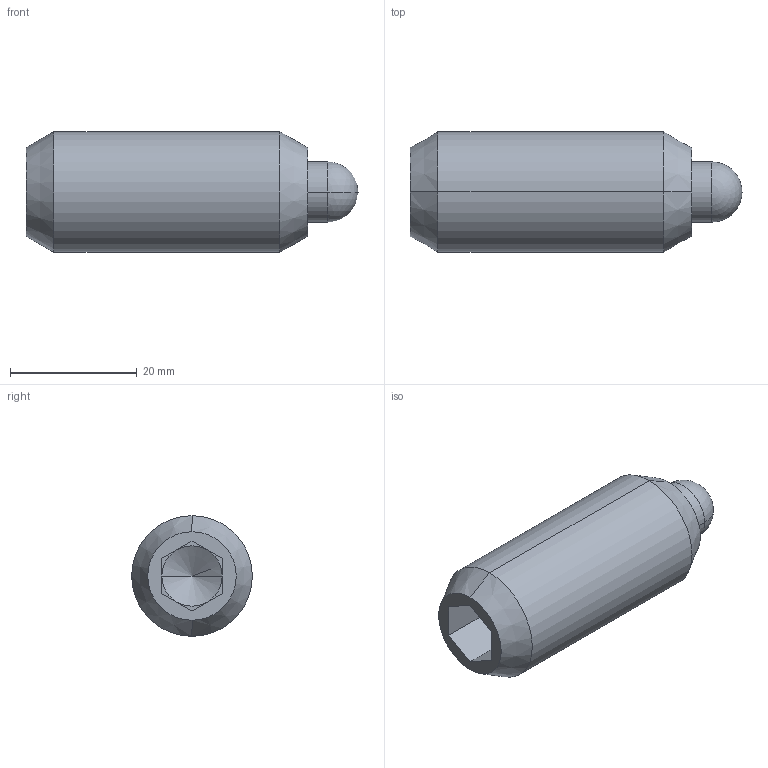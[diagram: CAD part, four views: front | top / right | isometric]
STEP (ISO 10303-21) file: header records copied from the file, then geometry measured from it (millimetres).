
FILE_DESCRIPTION (( 'STEP AP203' ), '1' );
FILE_NAME ('3B20.W153.step', '2009-10-12T13:55:45', ( 'Wixroyd' ), ( 'Wixroyd' ), 'SwSTEP 2.0', 'SolidWorks 2009', '' );
FILE_SCHEMA (( 'CONFIG_CONTROL_DESIGN' ));
Length unit declared in the file: inch
Products named in the file (3): Part1_3B20.W153; Part2_3B20.W153; 3B20.W153
Assembly tree (2 placements, depth 2):
  3B20.W153
    Part2_3B20.W153
    Part1_3B20.W153
Bounding box: 52.4 x 19.05 x 19.05 mm (x, y, z)
Volume: 9012.6 mm3; surface area: 5420.1 mm2
Topology: 2 solids, 2 shells, 43 faces, 92 edges, 52 vertices
Faces by surface type: plane 17, cylinder 12, cone 12, sphere 2
Entity records: 1413 total; most frequent: DIRECTION 220, CARTESIAN_POINT 184, ORIENTED_EDGE 172, EDGE_CURVE 86, AXIS2_PLACEMENT_3D 86, VERTEX_POINT 50, VECTOR 48, LINE 48
